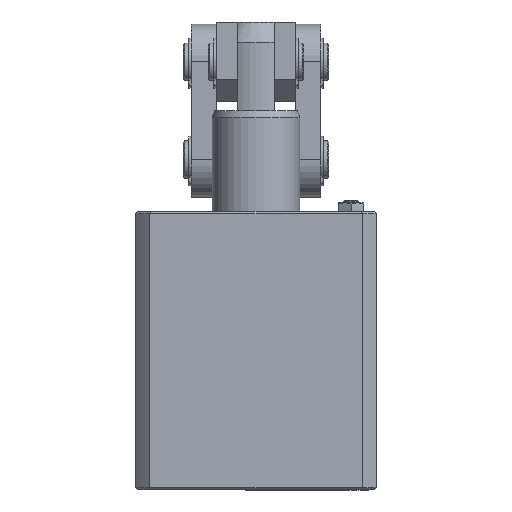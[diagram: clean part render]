
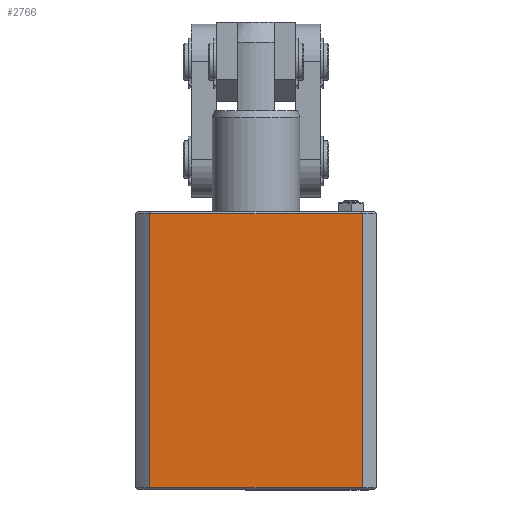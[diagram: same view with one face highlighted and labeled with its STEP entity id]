
A CAD part, left-side view. The second image highlights one B-rep face of the part: STEP entity #2766.
In plain terms, the highlighted planar face has unit normal (-1, 0, 0).
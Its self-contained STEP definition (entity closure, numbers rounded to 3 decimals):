
#365=PLANE('',#3076);
#473=LINE('',#4756,#617);
#474=LINE('',#4758,#618);
#475=LINE('',#4783,#619);
#482=LINE('',#4826,#626);
#617=VECTOR('',#3539,1000.);
#618=VECTOR('',#3542,1000.);
#619=VECTOR('',#3565,1000.);
#626=VECTOR('',#3594,1000.);
#1019=ORIENTED_EDGE('',*,*,#1603,.T.);
#1020=ORIENTED_EDGE('',*,*,#1587,.T.);
#1021=ORIENTED_EDGE('',*,*,#1581,.F.);
#1022=ORIENTED_EDGE('',*,*,#1580,.T.);
#1580=EDGE_CURVE('',#1902,#1904,#473,.T.);
#1581=EDGE_CURVE('',#1902,#1905,#474,.T.);
#1587=EDGE_CURVE('',#1906,#1905,#475,.T.);
#1603=EDGE_CURVE('',#1904,#1906,#482,.T.);
#1902=VERTEX_POINT('',#4746);
#1904=VERTEX_POINT('',#4755);
#1905=VERTEX_POINT('',#4759);
#1906=VERTEX_POINT('',#4784);
#2166=EDGE_LOOP('',(#1019,#1020,#1021,#1022));
#2452=FACE_BOUND('',#2166,.T.);
#2766=ADVANCED_FACE('',(#2452),#365,.T.);
#3076=AXIS2_PLACEMENT_3D('',#4825,#3592,#3593);
#3539=DIRECTION('',(0.,-1.,0.));
#3542=DIRECTION('',(0.,0.,1.));
#3565=DIRECTION('',(0.,1.,0.));
#3592=DIRECTION('',(-1.,0.,0.));
#3593=DIRECTION('',(0.,-1.,0.));
#3594=DIRECTION('',(0.,0.,1.));
#4746=CARTESIAN_POINT('',(-48.,42.332,0.8));
#4755=CARTESIAN_POINT('',(-48.,-42.332,0.8));
#4756=CARTESIAN_POINT('',(-48.,-42.332,0.8));
#4758=CARTESIAN_POINT('',(-48.,42.332,0.));
#4759=CARTESIAN_POINT('',(-48.,42.332,110.2));
#4783=CARTESIAN_POINT('',(-48.,42.332,110.2));
#4784=CARTESIAN_POINT('',(-48.,-42.332,110.2));
#4825=CARTESIAN_POINT('',(-48.,42.332,0.));
#4826=CARTESIAN_POINT('',(-48.,-42.332,0.));
